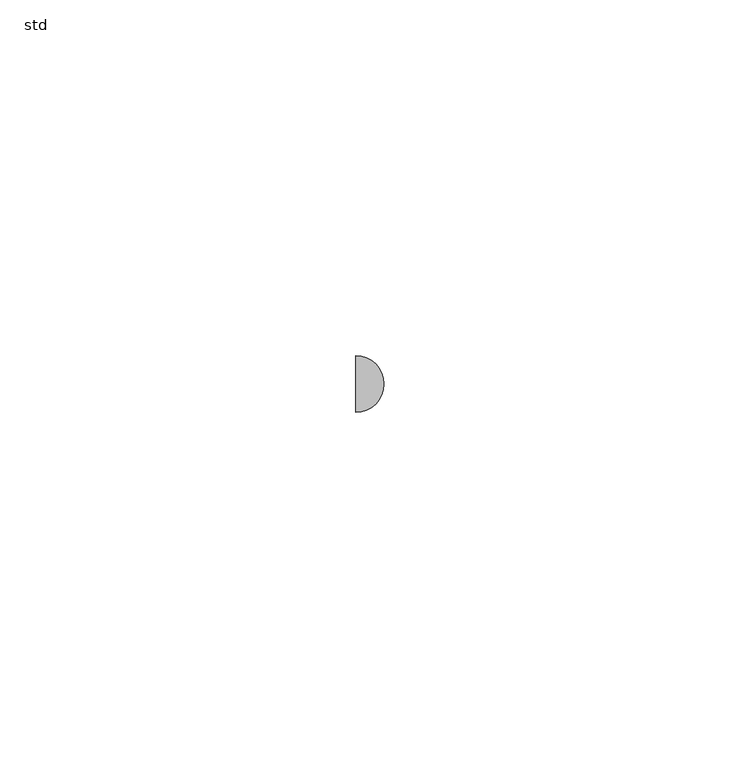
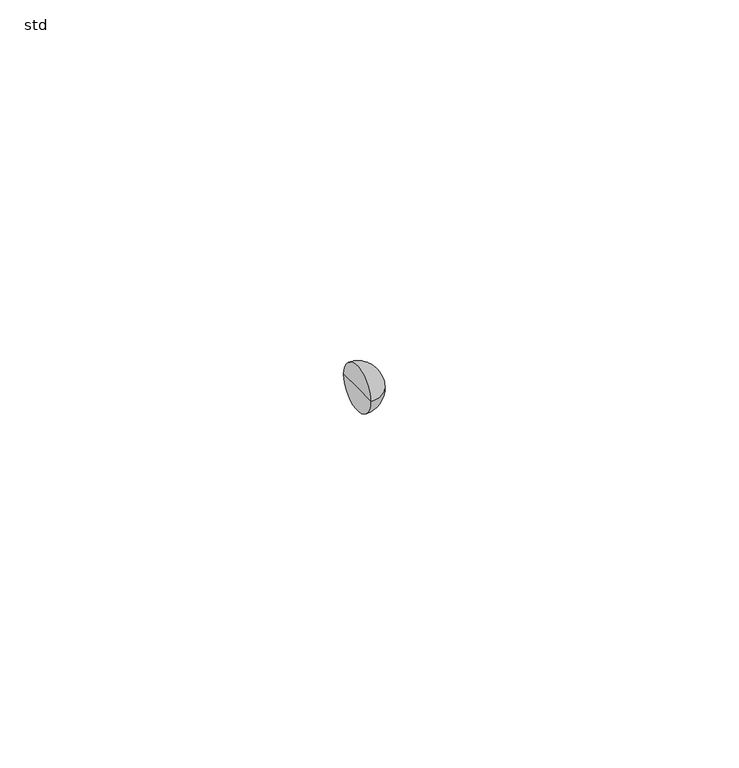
"""IFC4 building model written with IfcOpenShell, lengths in millimetres: pipe fitting geometry, PIF_ST_UN_GM-X double bend_ACO : std."""

import ifcopenshell
import ifcopenshell.guid

model = None  # the IFC model being written
_history = None  # IfcOwnerHistory: only IFC2X3 demands one
_inside = {}  # id of a spatial element -> (the spatial element, [elements in it])
_under = {}  # id of a project, library or spatial element -> (it, [spatial elements below it])
_declared = {}  # id of a project -> (the project, [libraries it declares])
_typed = {}  # id of a type object -> (the type object, [elements of that type])
_made_of = {}  # id of a material, layer set ... -> (it, [elements and type objects made of it])


def new_model(schema):
    """Start an empty IFC model of exactly this schema.

    Asked for "IFC4X3", IfcOpenShell would pick the latest addendum, in which some entities
    have other attributes; the version numbers below select the first issue.
    IFC2X3 requires an IfcOwnerHistory on every rooted entity: one is made here for all.
    """
    global model, _history
    if schema == "IFC4X3":
        model = ifcopenshell.file(schema_version=(4, 3, 0, 0))
    else:
        model = ifcopenshell.file(schema=schema)
    _inside.clear()
    _under.clear()
    _declared.clear()
    _typed.clear()
    _made_of.clear()
    _history = None
    if model.schema == "IFC2X3":
        org = make("IfcOrganization", Name="unknown")
        user = make(
            "IfcPersonAndOrganization",
            ThePerson=make("IfcPerson", FamilyName="unknown"),
            TheOrganization=org,
        )
        app = make(
            "IfcApplication",
            ApplicationDeveloper=org,
            Version="unknown",
            ApplicationFullName="unknown",
            ApplicationIdentifier="unknown",
        )
        _history = make(
            "IfcOwnerHistory",
            OwningUser=user,
            OwningApplication=app,
            ChangeAction="ADDED",
            CreationDate=0,
        )
    return model


def make(cls, **values):
    """One entity of the class cls with the attributes given. An attribute that is None is left unset."""
    return model.create_entity(
        cls, **{name: value for name, value in values.items() if value is not None}
    )


def rooted(cls, **values):
    """An entity with a GlobalId (a new one), such as an element, a storey or a relation."""
    return make(cls, GlobalId=ifcopenshell.guid.new(), OwnerHistory=_history, **values)


def si_unit(unit_type, name, prefix=None):
    """IfcSIUnit, for example si_unit("LENGTHUNIT", "METRE", prefix="MILLI")."""
    return make("IfcSIUnit", UnitType=unit_type, Prefix=prefix, Name=name)


def assignment(units):
    """IfcUnitAssignment: the units of a project."""
    return None if units is None else make("IfcUnitAssignment", Units=units)


def point(xyz):
    """IfcCartesianPoint."""
    return None if xyz is None else make("IfcCartesianPoint", Coordinates=xyz)


def direction(xyz):
    """IfcDirection."""
    return None if xyz is None else make("IfcDirection", DirectionRatios=xyz)


def frame(location, z_axis=None, x_axis=None):
    """IfcAxis2Placement3D, a coordinate frame: its origin and axes. An axis left out is left unset."""
    return make(
        "IfcAxis2Placement3D",
        Location=point(location),
        Axis=direction(z_axis),
        RefDirection=direction(x_axis),
    )


def origin():
    """The frame at (0, 0, 0) with its axes left unset."""
    return frame((0.0, 0.0, 0.0))


def place(relative_to, where):
    """IfcLocalPlacement: puts the frame where relative to a parent placement (None: the world)."""
    return make(
        "IfcLocalPlacement", PlacementRelTo=relative_to, RelativePlacement=where
    )


def context(
    kind, dimensions, precision=None, world=None, true_north=None, identifier=None
):
    """IfcGeometricRepresentationContext, for example the 3D "Model" context."""
    return make(
        "IfcGeometricRepresentationContext",
        ContextIdentifier=identifier,
        ContextType=kind,
        CoordinateSpaceDimension=dimensions,
        Precision=precision,
        WorldCoordinateSystem=world,
        TrueNorth=true_north,
    )


def project(units=None, contexts=None):
    """IfcProject with its units and contexts."""
    return rooted(
        "IfcProject",
        Name="project",
        RepresentationContexts=contexts,
        UnitsInContext=assignment(units),
    )


def spatial(cls, under=None, at=None, **own):
    """A site, building, storey or space (cls), placed at a placement, below another one or the project."""
    s = rooted(cls, ObjectPlacement=at, **own)
    if under is not None:
        _under.setdefault(under.id(), (under, []))[1].append(s)
    return s


def circle_curve(where, radius):
    """IfcCircle in the frame where."""
    return make("IfcCircle", Position=where, Radius=radius)


def ellipse_curve(where, semi_axis1, semi_axis2):
    """IfcEllipse in the frame where."""
    return make(
        "IfcEllipse", Position=where, SemiAxis1=semi_axis1, SemiAxis2=semi_axis2
    )


def trimmed(basis, trim1, trim2, sense, master):
    """IfcTrimmedCurve: the piece of a basis curve between two trims."""
    return make(
        "IfcTrimmedCurve",
        BasisCurve=basis,
        Trim1=trim1,
        Trim2=trim2,
        SenseAgreement=sense,
        MasterRepresentation=master,
    )


def shape(context_of_items, identifier, shape_type, items):
    """IfcShapeRepresentation: the items that make up one representation, for example the "Body"."""
    return make(
        "IfcShapeRepresentation",
        ContextOfItems=context_of_items,
        RepresentationIdentifier=identifier,
        RepresentationType=shape_type,
        Items=items,
    )


def source(mapping_origin, context_of_items, identifier, shape_type, items):
    """IfcRepresentationMap: a shape defined once, which mapped items show again and again."""
    return make(
        "IfcRepresentationMap",
        MappingOrigin=mapping_origin,
        MappedRepresentation=shape(context_of_items, identifier, shape_type, items),
    )


def transform(
    local_origin,
    x_axis=None,
    y_axis=None,
    z_axis=None,
    scale=None,
    scale2=None,
    scale3=None,
    uniform=True,
):
    """IfcCartesianTransformationOperator3D, or its non-uniform kind. x_axis, y_axis, z_axis: its Axis1, 2, 3."""
    if uniform:
        return make(
            "IfcCartesianTransformationOperator3D",
            Axis1=direction(x_axis),
            Axis2=direction(y_axis),
            LocalOrigin=point(local_origin),
            Scale=scale,
            Axis3=direction(z_axis),
        )
    return make(
        "IfcCartesianTransformationOperator3DnonUniform",
        Axis1=direction(x_axis),
        Axis2=direction(y_axis),
        LocalOrigin=point(local_origin),
        Scale=scale,
        Axis3=direction(z_axis),
        Scale2=scale2,
        Scale3=scale3,
    )


def mapped(mapping_source, mapping_target):
    """IfcMappedItem: shows the shape of a source again, moved by a transform."""
    return make(
        "IfcMappedItem", MappingSource=mapping_source, MappingTarget=mapping_target
    )


def made_of(thing, what):
    """Note that an element or type object is made of a material, layer set ...; save() writes the relation."""
    if what is not None:
        _made_of.setdefault(what.id(), (what, []))[1].append(thing)
    return thing


def element(
    cls,
    number,
    at=None,
    inside=None,
    cuts=None,
    type_object=None,
    material=None,
    context=None,
    identifier="Body",
    shape_type=None,
    held_by="IfcProductDefinitionShape",
    body=None,
    shapes=None,
    **own,
):
    """One element of the class cls, such as IfcWall. Its Tag is "e" and its number.

    at: its placement. inside: the storey or other place that contains it. cuts: it is an
    opening in that element (IfcRelVoidsElement). A single representation is given by context,
    identifier, shape_type and body (its items); several are given by shapes. held_by: the class
    of the entity that holds the representations. save() writes the other relations.
    """
    e = rooted(cls, Tag="e%d" % number, ObjectPlacement=at, **own)
    if body is not None:
        shapes = [shape(context, identifier, shape_type, body)]
    if shapes is not None:
        e.Representation = make(held_by, Representations=shapes)
    if inside is not None:
        _inside.setdefault(inside.id(), (inside, []))[1].append(e)
    if cuts is not None:
        rooted(
            "IfcRelVoidsElement", RelatingBuildingElement=cuts, RelatedOpeningElement=e
        )
    if type_object is not None:
        _typed.setdefault(type_object.id(), (type_object, []))[1].append(e)
    return made_of(e, material)


def aggregate(whole, parts):
    """IfcRelAggregates: a whole, such as a stair, and the parts it consists of."""
    return rooted("IfcRelAggregates", RelatingObject=whole, RelatedObjects=parts)


def save(model, path):
    """Write the relations noted so far, then the file.

    IfcRelAggregates (storeys below a building ...), IfcRelContainedInSpatialStructure (elements
    in a storey), IfcRelDefinesByType, IfcRelAssociatesMaterial and IfcRelDeclares: one each for
    every whole, place, type object, material and project.
    """
    for whole, parts in _under.values():
        aggregate(whole, parts)
    for where, things in _inside.values():
        rooted(
            "IfcRelContainedInSpatialStructure",
            RelatedElements=things,
            RelatingStructure=where,
        )
    for kind, things in _typed.values():
        rooted("IfcRelDefinesByType", RelatedObjects=things, RelatingType=kind)
    for what, things in _made_of.values():
        rooted("IfcRelAssociatesMaterial", RelatedObjects=things, RelatingMaterial=what)
    for by, libraries in _declared.values():
        rooted("IfcRelDeclares", RelatingContext=by, RelatedDefinitions=libraries)
    model.write(path)


def plane_surface(at):
    """IfcPlane: the flat surface through the origin of the frame at, square to its z axis."""
    return make("IfcPlane", Position=at)


def revolved_surface(curve, axis_point, axis_direction):
    """IfcSurfaceOfRevolution: the curve turned about the line through axis_point along axis_direction."""
    return make(
        "IfcSurfaceOfRevolution",
        SweptCurve=make("IfcArbitraryOpenProfileDef", ProfileType="CURVE", Curve=curve),
        AxisPosition=make("IfcAxis1Placement", Location=point(axis_point), Axis=direction(axis_direction)),
    )


def advanced_brep(points, edges, surfaces, faces):
    """IfcAdvancedBrep: a solid bounded by faces that lie on surfaces and meet in shared edges.

    An edge is (start, end): straight between two places in points (the first is 0);
    or (start, end, curve); or (start, end, curve, False) where it runs against its curve.
    A face is (place in surfaces, loops), or (place, loops, False) where it looks against
    its surface's normal. A loop lists edges by number (the first is 1), with a minus sign
    where the edge is run from its end to its start. The first loop is the outer one.
    """
    corners = [point(p) for p in points]
    vertices = [make("IfcVertexPoint", VertexGeometry=c) for c in corners]
    made = []
    for start, end, *more in edges:
        made.append(
            make(
                "IfcEdgeCurve",
                EdgeStart=vertices[start],
                EdgeEnd=vertices[end],
                EdgeGeometry=more[0] if more else make("IfcPolyline", Points=[corners[start], corners[end]]),
                SameSense=more[1] if len(more) > 1 else True,
            )
        )
    hull = []
    for where, loops, *sense in faces:
        bounds = []
        for j, loop in enumerate(loops):
            ring = [make("IfcOrientedEdge", EdgeElement=made[abs(k) - 1], Orientation=k > 0) for k in loop]
            bounds.append(
                make(
                    "IfcFaceOuterBound" if j == 0 else "IfcFaceBound",
                    Bound=make("IfcEdgeLoop", EdgeList=ring),
                    Orientation=True,
                )
            )
        hull.append(make("IfcAdvancedFace", Bounds=bounds, FaceSurface=surfaces[where], SameSense=sense[0] if sense else True))
    return make("IfcAdvancedBrep", Outer=make("IfcClosedShell", CfsFaces=hull))


def std_7ccef80b(model_context):
    return source(origin(), model_context, "Body", "AdvancedBrep", [
        advanced_brep(
        [(-249.7880796, -4.0, 0.0), (-249.7880796, 4.0, 0.0), (-245.7880796, 0.0, 0.0), (-249.7880796, 0.0, 0.0)],
        [
            (0, 1, circle_curve(frame((-249.7880796, 0.0, 0.0), z_axis=(1.0, 0.0, 0.0), x_axis=(0.0, 1.0, 0.0)), 4.0)),
            (1, 2, circle_curve(frame((-249.7880796, 0.0, 0.0), z_axis=(0.0, 0.0, -1.0), x_axis=(-1.0, 0.0, 0.0)), 4.0)),
            (2, 0, circle_curve(frame((-249.7880796, 0.0, 0.0), z_axis=(0.0, 0.0, -1.0), x_axis=(-1.0, 0.0, 0.0)), 4.0)),
            (1, 0, circle_curve(frame((-249.7880796, 0.0, 0.0), z_axis=(1.0, 0.0, 0.0), x_axis=(0.0, 1.0, 0.0)), 4.0)),
            (3, 1),
            (0, 3),
        ],
        [
            revolved_surface(trimmed(ellipse_curve(frame((-249.7880796, 0.0, 0.0), z_axis=(0.0, 0.0, 1.0), x_axis=(-1.0, 0.0, 0.0)), 4.0, 4.0), [point((-245.7880796, 0.0, 0.0))], [point((-249.7880796, 4.0, 0.0))], True, "CARTESIAN"), (-256.779757, 0.0, 0.0), (-1.0, 0.0, 0.0)),
            plane_surface(frame((-249.7880796, 0.0, 0.0), z_axis=(-1.0, 0.0, 0.0), x_axis=(0.0, 1.0, 0.0))),
        ],
        [
            (0, [[1, 2, 3]]),
            (0, [[4, -3, -2]]),
            (1, [[5, -1, 6]]),
            (1, [[-6, -4, -5]]),
        ],
    ),
    ])


if __name__ == "__main__":
    model = new_model("IFC4")
    model_context = context("Model", 3, world=origin())
    ifc_project = project(units=[si_unit("LENGTHUNIT", "METRE", prefix="MILLI")], contexts=[model_context])
    site = spatial("IfcSite", under=ifc_project)
    building = spatial("IfcBuilding", under=site)
    placement = place(None, origin())
    std_shape = std_7ccef80b(model_context)
    element("IfcPipeFitting", 1, ObjectType="PIF_ST_UN_GM-X double bend_ACO : std", at=placement, inside=building, context=model_context, shape_type="MappedRepresentation", body=[
        mapped(std_shape, transform((0.0, 0.0, 0.0), x_axis=(1.0, 0.0, 0.0), y_axis=(0.0, 1.0, 0.0), z_axis=(0.0, 0.0, 1.0))),
    ])
    save(model, "model.ifc")
